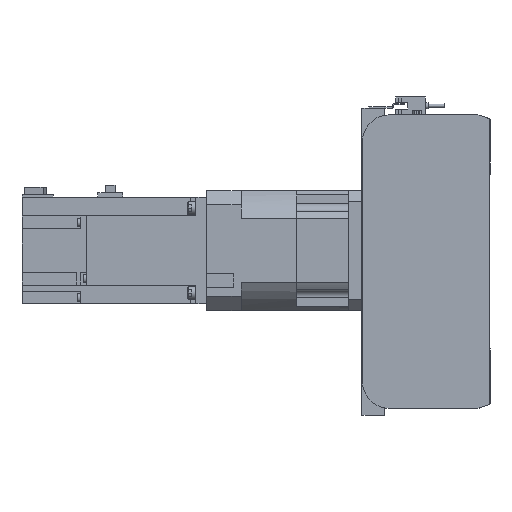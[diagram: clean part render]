
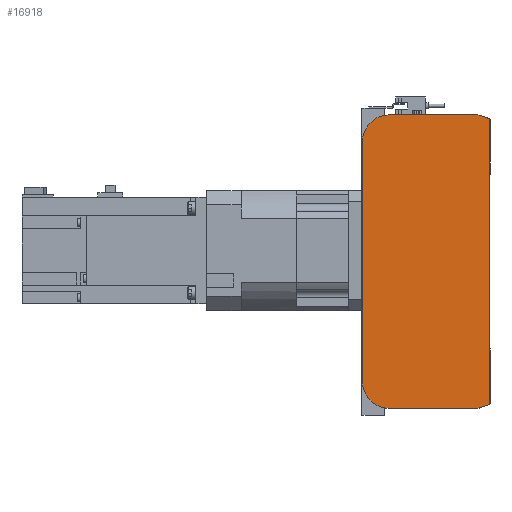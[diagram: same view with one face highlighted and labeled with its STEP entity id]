
A CAD part, left-side view. The second image highlights one B-rep face of the part: STEP entity #16918.
In plain terms, the highlighted planar face has unit normal (-1, 0, 0).
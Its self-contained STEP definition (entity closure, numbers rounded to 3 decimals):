
#952=CIRCLE('',#18458,20.);
#953=CIRCLE('',#18461,20.);
#4330=ORIENTED_EDGE('',*,*,#7368,.F.);
#4331=ORIENTED_EDGE('',*,*,#7410,.F.);
#4332=ORIENTED_EDGE('',*,*,#7408,.F.);
#4333=ORIENTED_EDGE('',*,*,#7406,.F.);
#4334=ORIENTED_EDGE('',*,*,#7395,.F.);
#4335=ORIENTED_EDGE('',*,*,#7386,.F.);
#4336=ORIENTED_EDGE('',*,*,#7382,.F.);
#4337=ORIENTED_EDGE('',*,*,#7379,.F.);
#7368=EDGE_CURVE('',#9231,#9232,#10747,.T.);
#7379=EDGE_CURVE('',#9232,#9239,#10758,.T.);
#7382=EDGE_CURVE('',#9239,#9241,#10761,.T.);
#7386=EDGE_CURVE('',#9241,#9242,#10765,.T.);
#7395=EDGE_CURVE('',#9242,#9248,#10774,.T.);
#7406=EDGE_CURVE('',#9248,#9255,#952,.T.);
#7408=EDGE_CURVE('',#9255,#9256,#10786,.T.);
#7410=EDGE_CURVE('',#9256,#9231,#953,.T.);
#9231=VERTEX_POINT('',#27744);
#9232=VERTEX_POINT('',#27746);
#9239=VERTEX_POINT('',#27765);
#9241=VERTEX_POINT('',#27771);
#9242=VERTEX_POINT('',#27777);
#9248=VERTEX_POINT('',#27793);
#9255=VERTEX_POINT('',#27812);
#9256=VERTEX_POINT('',#27816);
#10747=LINE('',#27745,#12306);
#10758=LINE('',#27764,#12317);
#10761=LINE('',#27770,#12320);
#10765=LINE('',#27776,#12324);
#10774=LINE('',#27792,#12333);
#10786=LINE('',#27815,#12345);
#12306=VECTOR('',#22437,1000.);
#12317=VECTOR('',#22450,1000.);
#12320=VECTOR('',#22455,1000.);
#12324=VECTOR('',#22461,1000.);
#12333=VECTOR('',#22472,1000.);
#12345=VECTOR('',#22490,1000.);
#13730=EDGE_LOOP('',(#4330,#4331,#4332,#4333,#4334,#4335,#4336,#4337));
#15178=FACE_BOUND('',#13730,.T.);
#16065=PLANE('',#18462);
#16918=ADVANCED_FACE('',(#15178),#16065,.F.);
#18458=AXIS2_PLACEMENT_3D('',#27811,#22485,#22486);
#18461=AXIS2_PLACEMENT_3D('',#27819,#22494,#22495);
#18462=AXIS2_PLACEMENT_3D('',#27820,#22496,#22497);
#22437=DIRECTION('',(0.,-1.,0.));
#22450=DIRECTION('',(0.,-0.945,-0.328));
#22455=DIRECTION('',(0.,0.,-1.));
#22461=DIRECTION('',(0.,0.945,-0.328));
#22472=DIRECTION('',(0.,1.,0.));
#22485=DIRECTION('',(1.,0.,0.));
#22486=DIRECTION('',(0.,0.,-1.));
#22490=DIRECTION('',(0.,0.,1.));
#22494=DIRECTION('',(1.,0.,0.));
#22495=DIRECTION('',(0.,0.,-1.));
#22496=DIRECTION('',(1.,0.,0.));
#22497=DIRECTION('',(0.,0.,-1.));
#27744=CARTESIAN_POINT('',(0.,75.5,110.));
#27745=CARTESIAN_POINT('',(0.,75.5,110.));
#27746=CARTESIAN_POINT('',(0.,9.,110.));
#27764=CARTESIAN_POINT('',(0.,9.,110.));
#27765=CARTESIAN_POINT('',(0.,0.5,107.05));
#27770=CARTESIAN_POINT('',(0.,0.5,107.05));
#27771=CARTESIAN_POINT('',(0.,0.5,-107.05));
#27776=CARTESIAN_POINT('',(0.,0.5,-107.05));
#27777=CARTESIAN_POINT('',(0.,9.,-110.));
#27792=CARTESIAN_POINT('',(0.,9.,-110.));
#27793=CARTESIAN_POINT('',(0.,75.5,-110.));
#27811=CARTESIAN_POINT('',(0.,75.5,-90.));
#27812=CARTESIAN_POINT('',(0.,95.5,-90.));
#27815=CARTESIAN_POINT('',(0.,95.5,-90.));
#27816=CARTESIAN_POINT('',(0.,95.5,90.));
#27819=CARTESIAN_POINT('',(0.,75.5,90.));
#27820=CARTESIAN_POINT('',(0.,75.5,-90.));
